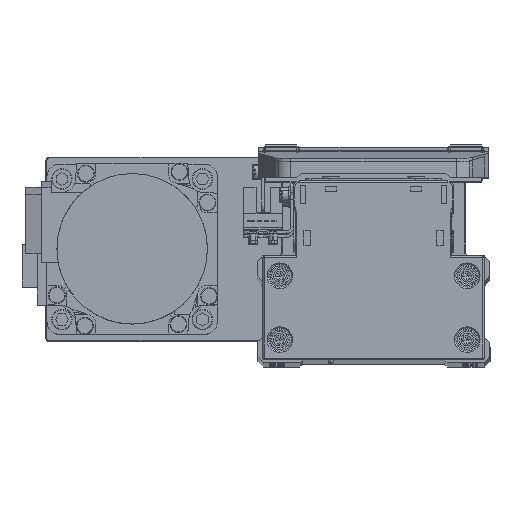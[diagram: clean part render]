
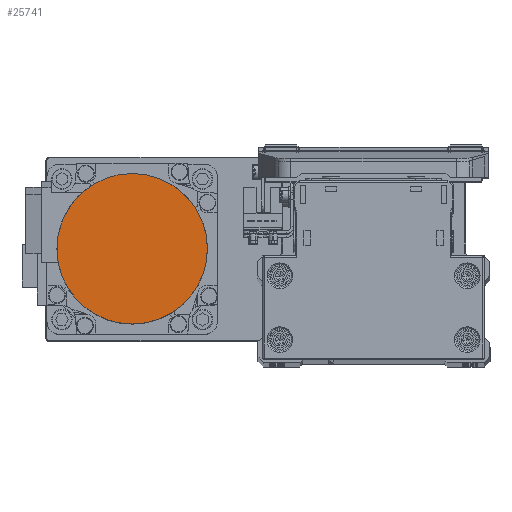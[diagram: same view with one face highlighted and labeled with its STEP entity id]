
A CAD part, top view. The second image highlights one B-rep face of the part: STEP entity #25741.
In plain terms, the highlighted planar face has unit normal (0, 0, 1) as drawn and (0, 0, -1) by its records, which use the part's own axes.
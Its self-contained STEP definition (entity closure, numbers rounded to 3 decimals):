
#1688 = CARTESIAN_POINT ( 'NONE',  ( 26.5, 0., -109.7 ) ) ;
#2871 = DIRECTION ( 'NONE',  ( -1., 0., 0. ) ) ;
#3335 = DIRECTION ( 'NONE',  ( 1., 0., 0. ) ) ;
#4848 = EDGE_CURVE ( 'NONE', #12662, #40688, #10122, .T. ) ;
#6486 = PLANE ( 'NONE',  #20848 ) ;
#9490 = DIRECTION ( 'NONE',  ( 1., 0., 0. ) ) ;
#9694 = AXIS2_PLACEMENT_3D ( 'NONE', #25407, #38098, #9490 ) ;
#10122 = CIRCLE ( 'NONE', #15467, 26.5 ) ;
#12662 = VERTEX_POINT ( 'NONE', #24443 ) ;
#14636 = EDGE_LOOP ( 'NONE', ( #29499, #24578 ) ) ;
#15467 = AXIS2_PLACEMENT_3D ( 'NONE', #18813, #31544, #2871 ) ;
#18630 = EDGE_CURVE ( 'NONE', #40688, #12662, #27728, .T. ) ;
#18813 = CARTESIAN_POINT ( 'NONE',  ( 0., 0., -109.7 ) ) ;
#19275 = CARTESIAN_POINT ( 'NONE',  ( 0., 0., -109.7 ) ) ;
#20848 = AXIS2_PLACEMENT_3D ( 'NONE', #19275, #32001, #3335 ) ;
#24443 = CARTESIAN_POINT ( 'NONE',  ( -26.5, 0., -109.7 ) ) ;
#24578 = ORIENTED_EDGE ( 'NONE', *, *, #18630, .F. ) ;
#25407 = CARTESIAN_POINT ( 'NONE',  ( 0., 0., -109.7 ) ) ;
#25741 = ADVANCED_FACE ( 'NONE', ( #35127 ), #6486, .F. ) ;
#27728 = CIRCLE ( 'NONE', #9694, 26.5 ) ;
#29499 = ORIENTED_EDGE ( 'NONE', *, *, #4848, .F. ) ;
#31544 = DIRECTION ( 'NONE',  ( 0., 0., 1. ) ) ;
#32001 = DIRECTION ( 'NONE',  ( 0., 0., 1. ) ) ;
#35127 = FACE_OUTER_BOUND ( 'NONE', #14636, .T. ) ;
#38098 = DIRECTION ( 'NONE',  ( 0., 0., 1. ) ) ;
#40688 = VERTEX_POINT ( 'NONE', #1688 ) ;
